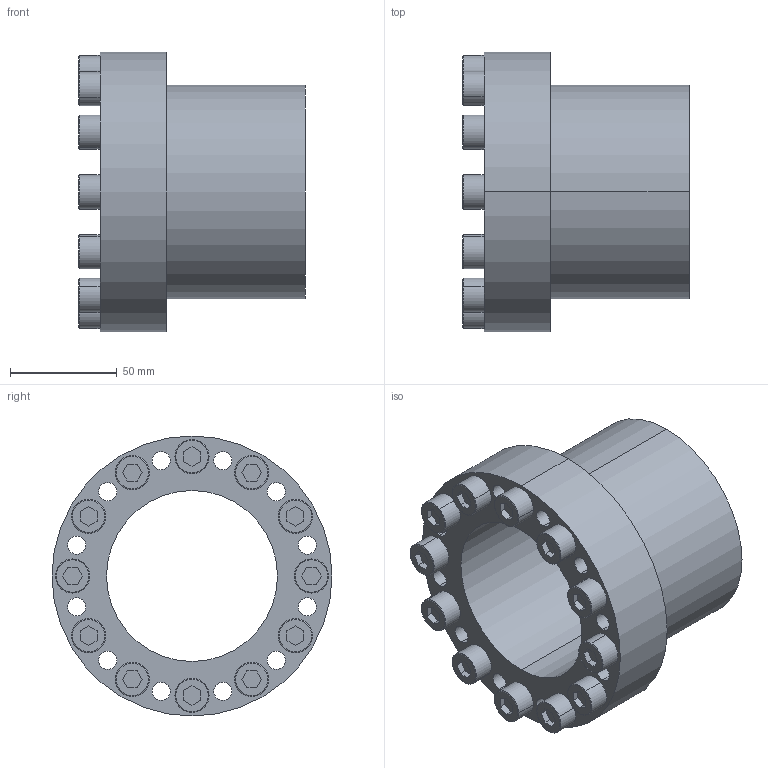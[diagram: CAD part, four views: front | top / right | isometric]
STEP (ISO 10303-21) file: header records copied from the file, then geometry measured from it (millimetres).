
FILE_DESCRIPTION (( 'STEP AP203' ), '1' );
FILE_NAME ('SB-80.STEP', '2009-09-29T15:52:30', ( 'USER' ), ( 'HOME' ), 'SwSTEP 2.0', 'SolidWorks 2007', '' );
FILE_SCHEMA (( 'CONFIG_CONTROL_DESIGN' ));
Length unit declared in the file: millimetre
Products named in the file (1): SB-80
Bounding box: 106 x 131 x 131 mm (x, y, z)
Volume: 450179.4 mm3; surface area: 112916.7 mm2
Topology: 13 solids, 13 shells, 249 faces, 570 edges, 372 vertices
Faces by surface type: plane 123, cylinder 102, cone 24
Entity records: 7213 total; most frequent: DIRECTION 1298, CARTESIAN_POINT 1192, ORIENTED_EDGE 1140, EDGE_CURVE 570, AXIS2_PLACEMENT_3D 478, VERTEX_POINT 372, VECTOR 342, LINE 342
